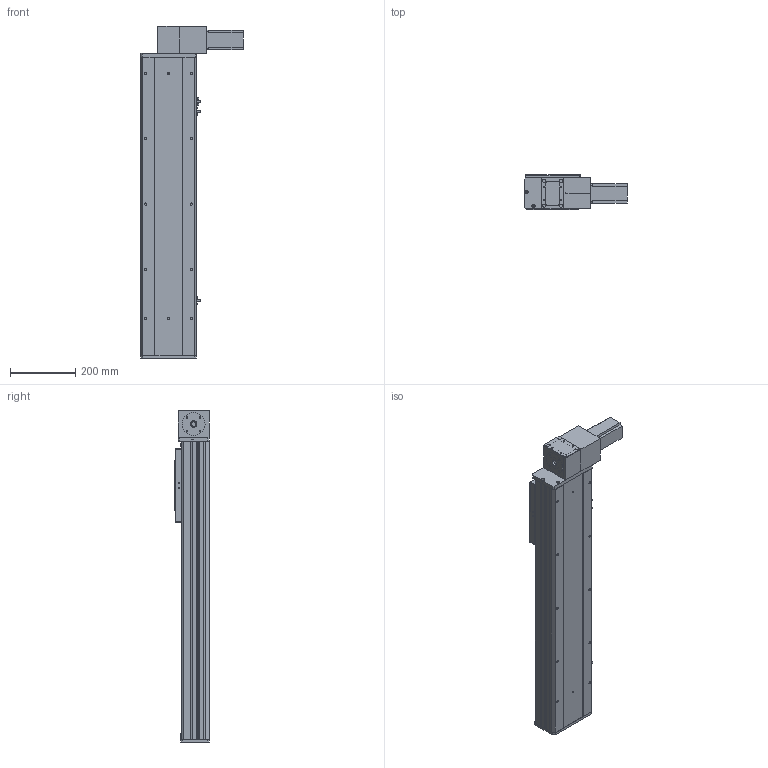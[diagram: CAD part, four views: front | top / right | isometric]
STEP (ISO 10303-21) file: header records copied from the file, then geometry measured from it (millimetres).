
FILE_DESCRIPTION (( 'STEP AP203' ), '1' );
FILE_NAME ('Y170CB-D105-S600-BD-P400W.STEP', '2020-02-20T08:21:43', ( '微软用户' ), ( '微软中国' ), 'SwSTEP 2.0', 'SolidWorks 2017', '' );
FILE_SCHEMA (( 'CONFIG_CONTROL_DESIGN' ));
Length unit declared in the file: millimetre
Products named in the file (16): 70C-雄赽釱-奻-; 0C--雄赽釱俋欶-170; B-源倛裔啣; 70CB-詩湍--; san松下电机400不带刹车----; Y100-135俋离換覜ん--; 70CB-掛极-; Y170CB-陔俋离換覜結え---; --70CB --喘謫眊楊擘啣-; Y1埴倛裔; 70CB-耜裔啣-; 70B喘謫眊----; 70C--詩湍揤踡え-; 0B薊粣ん眊-400W--; 70CB--耜裔; Y170CB-D105-S600-BD-P400W
Assembly tree (19 placements, depth 2):
  Y170CB-D105-S600-BD-P400W
    B-源倛裔啣
    san松下电机400不带刹车----
    70CB-掛极-
    --70CB --喘謫眊楊擘啣-
    70CB-耜裔啣-  x2
    70C--詩湍揤踡え-  x2
    70CB--耜裔
    70C-雄赽釱-奻-
    0C--雄赽釱俋欶-170
    70CB-詩湍--
    Y100-135俋离換覜ん--  x3
    Y170CB-陔俋离換覜結え---
    Y1埴倛裔
    70B喘謫眊----
    0B薊粣ん眊-400W--
Bounding box: 313.5 x 107 x 1016 mm (x, y, z)
Volume: 5251949 mm3; surface area: 1742393.9 mm2
Topology: 19 solids, 19 shells, 904 faces, 2378 edges, 1576 vertices
Faces by surface type: cylinder 458, plane 422, cone 24
Entity records: 28135 total; most frequent: CARTESIAN_POINT 5206, DIRECTION 4575, ORIENTED_EDGE 4238, EDGE_CURVE 2119, AXIS2_PLACEMENT_3D 1681, VERTEX_POINT 1406, LINE 1213, VECTOR 1213
